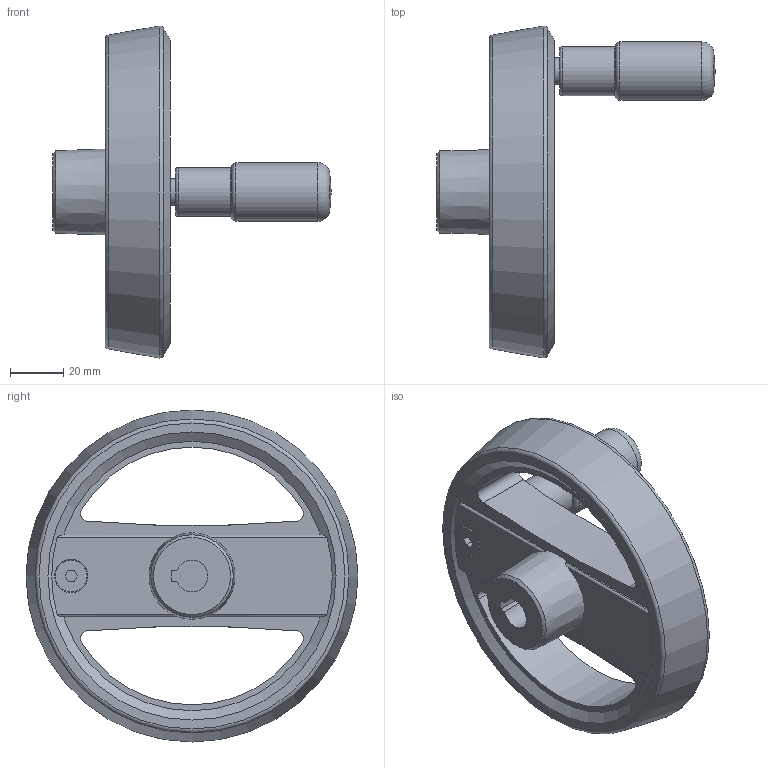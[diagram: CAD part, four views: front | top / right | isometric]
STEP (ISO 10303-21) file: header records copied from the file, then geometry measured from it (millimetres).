
FILE_DESCRIPTION( ( 'STEP AP203' ), '1' );
FILE_NAME( 'C:/Temp/Ganter_Step_05_03_2020/data/1_3/gn_924_3/gn_924_3_b/Handwheel with retractable handle GN 924.3-125-B12-R-SW (activated).stp', '2020-03-05T10:40:44', ( 'License CC BY-ND 4.0' ), ( 'CADENAS' ), ' ', 'PARTsolutions', ' ' );
FILE_SCHEMA( ( 'CONFIG_CONTROL_DESIGN' ) );
Length unit declared in the file: millimetre
Products named in the file (3): Handwheel with retractable handle GN 924.3-125-B12-R-SW (activated); _Umleggriff-Handrad GN 924.3-125-B12-R-SW-1; _Umleggriff-Handrad GN 924.3-125-B12-R-SW-2
Assembly tree (2 placements, depth 2):
  Handwheel with retractable handle GN 924.3-125-B12-R-SW (activated)
    _Umleggriff-Handrad GN 924.3-125-B12-R-SW-1
    _Umleggriff-Handrad GN 924.3-125-B12-R-SW-2
Bounding box: 104.8 x 125 x 125 mm (x, y, z)
Volume: 165973.2 mm3; surface area: 51024.9 mm2
Topology: 2 solids, 2 shells, 103 faces, 261 edges, 167 vertices
Faces by surface type: plane 48, cylinder 35, cone 11, torus 7, sphere 2
Full cylindrical faces by diameter (mm): 4 x4, 10 x1, 12 x1, 18.5 x1, 22 x1, 25 x1, 26.6 x1
Entity records: 3393 total; most frequent: CARTESIAN_POINT 939, DIRECTION 484, ORIENTED_EDGE 448, EDGE_CURVE 224, AXIS2_PLACEMENT_3D 194, VERTEX_POINT 162, EDGE_LOOP 151, FACE_OUTER_BOUND 120
